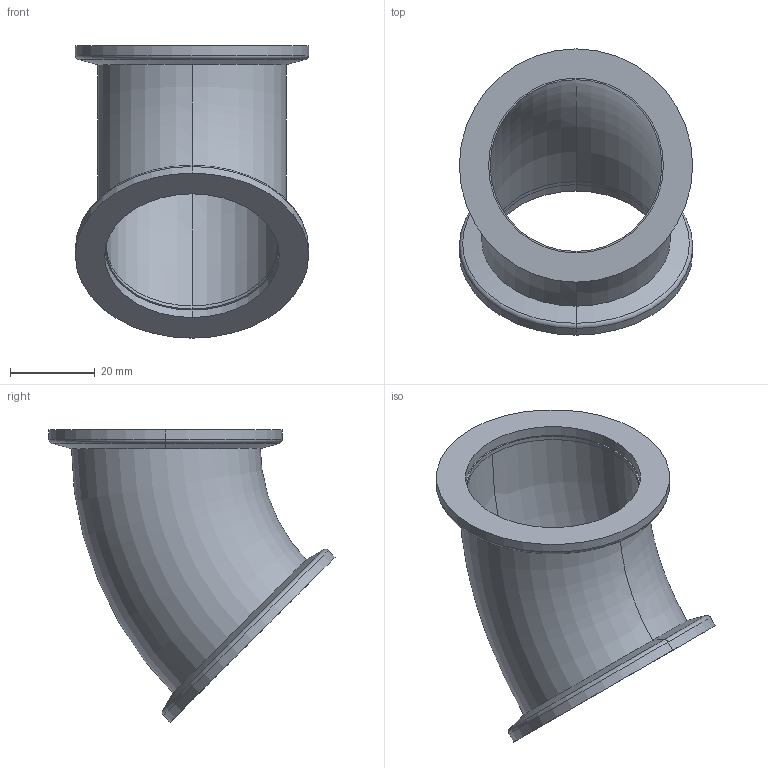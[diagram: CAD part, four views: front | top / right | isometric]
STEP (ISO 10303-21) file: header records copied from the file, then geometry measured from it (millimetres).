
FILE_DESCRIPTION (( 'STEP AP214' ), '1' );
FILE_NAME ('W3RB40-45.STEP', '2020-01-21T09:59:50', ( '' ), ( '' ), 'SwSTEP 2.0', 'SolidWorks 2018', '' );
FILE_SCHEMA (( 'AUTOMOTIVE_DESIGN' ));
Length unit declared in the file: millimetre
Products named in the file (1): W3RB40-45
Bounding box: 55 x 67.43 x 68.91 mm (x, y, z)
Volume: 20541 mm3; surface area: 19954.4 mm2
Topology: 3 solids, 3 shells, 36 faces, 72 edges, 44 vertices
Faces by surface type: cylinder 14, torus 8, plane 8, cone 6
Entity records: 1016 total; most frequent: DIRECTION 198, CARTESIAN_POINT 153, ORIENTED_EDGE 144, AXIS2_PLACEMENT_3D 89, EDGE_CURVE 72, CIRCLE 52, EDGE_LOOP 44, VERTEX_POINT 44
